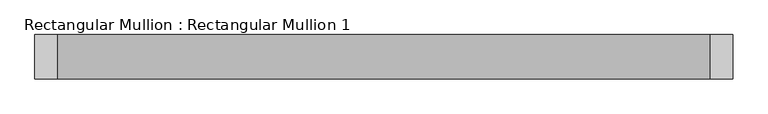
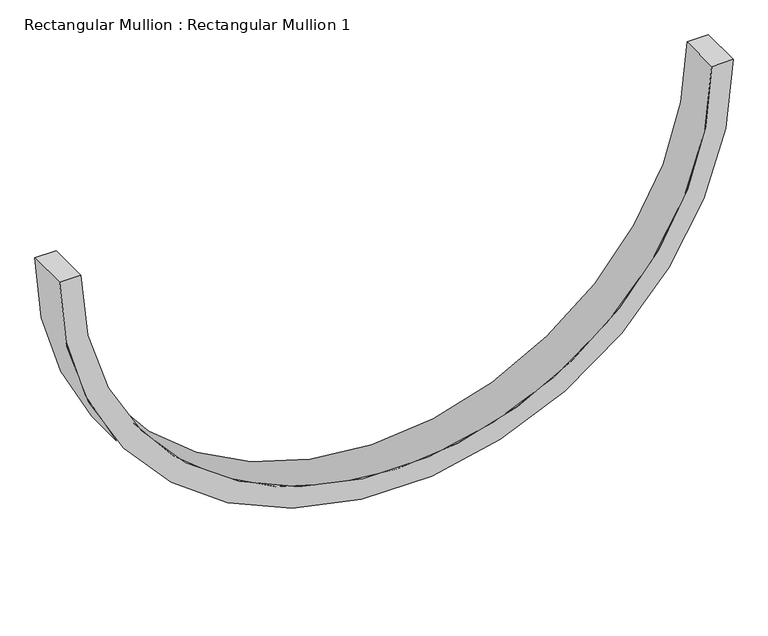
"""IFC4 building model written with IfcOpenShell, lengths in millimetres: member geometry, Rectangular Mullion : Rectangular Mullion 1."""

from ifc_helpers import new_model, si_unit, point, frame, frame_2d, origin, place, context, project, spatial, polyline, circle_curve, trimmed, segment, composite_curve, outline, extrude, source, transform, mapped, element, save


def rectangular_mullion_rectangular_mullion_1_7fe311f0(model_context):
    return source(origin(), model_context, "Body", "SweptSolid", [
        extrude(outline(composite_curve([segment(trimmed(circle_curve(frame_2d((0.0, -1000.0)), 1000.0), [point((0.0, -2000.0))], [point((0.0, 0.0))], False, "CARTESIAN"), True, "CONTINUOUS"), segment(polyline([(0.0, 0.0), (0.0, -63.5)]), True, "CONTINUOUS"), segment(trimmed(circle_curve(frame_2d((0.0, -1000.0)), 936.5), [point((0.0, -63.5))], [point((0.0, -1936.5))], True, "CARTESIAN"), True, "CONTINUOUS"), segment(polyline([(0.0, -1936.5), (0.0, -2000.0)]), True, "CONTINUOUS")], self_intersect=False)), frame((0.0, -63.5, 0.0), z_axis=(0.0, 1.0, 0.0), x_axis=(0.0, 0.0, 1.0)), (0.0, 0.0, 1.0), 127.0),
    ])


if __name__ == "__main__":
    model = new_model("IFC4")
    model_context = context("Model", 3, world=origin())
    ifc_project = project(units=[si_unit("LENGTHUNIT", "METRE", prefix="MILLI")], contexts=[model_context])
    site = spatial("IfcSite", under=ifc_project)
    building = spatial("IfcBuilding", under=site)
    placement = place(None, origin())
    rectangular_mullion_rectangular_mullion_1_shape = rectangular_mullion_rectangular_mullion_1_7fe311f0(model_context)
    element("IfcMember", 1, ObjectType="Rectangular Mullion : Rectangular Mullion 1", at=placement, inside=building, context=model_context, shape_type="MappedRepresentation", body=[
        mapped(rectangular_mullion_rectangular_mullion_1_shape, transform((0.0, 0.0, 0.0), x_axis=(1.0, 0.0, 0.0), y_axis=(0.0, 1.0, 0.0), z_axis=(0.0, 0.0, 1.0))),
    ])
    save(model, "model.ifc")
